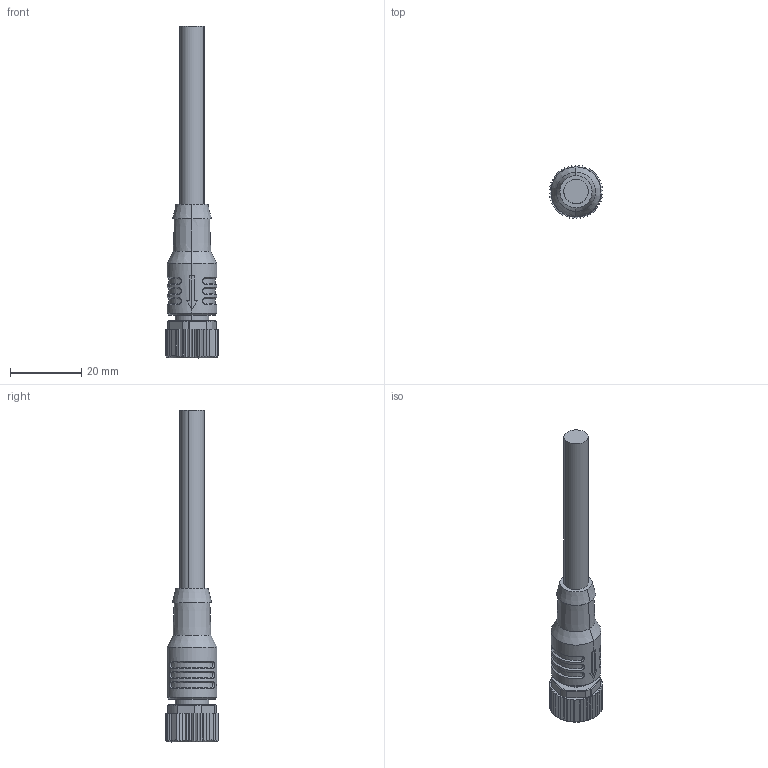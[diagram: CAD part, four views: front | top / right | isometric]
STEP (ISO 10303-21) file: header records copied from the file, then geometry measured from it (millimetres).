
FILE_DESCRIPTION (( 'STEP AP203' ), '1' );
FILE_NAME ('64S421-XXX.STEP', '2024-11-25T02:23:40', ( 'L' ), ( '' ), 'SwSTEP 2.0', 'SolidWorks 2019', '' );
FILE_SCHEMA (( 'CONFIG_CONTROL_DESIGN' ));
Length unit declared in the file: millimetre
Products named in the file (1): 64S421-XXX
Bounding box: 14.98 x 15 x 93 mm (x, y, z)
Volume: 6695.4 mm3; surface area: 4315.7 mm2
Topology: 1 solids, 1 shells, 253 faces, 658 edges, 429 vertices
Faces by surface type: plane 126, cylinder 66, cone 37, bspline 18, torus 6
Entity records: 11347 total; most frequent: CARTESIAN_POINT 5431, ORIENTED_EDGE 1316, DIRECTION 1054, EDGE_CURVE 658, VERTEX_POINT 429, AXIS2_PLACEMENT_3D 382, VECTOR 290, LINE 290
